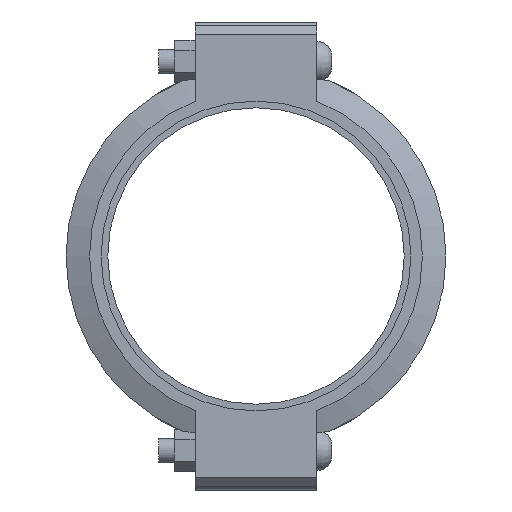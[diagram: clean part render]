
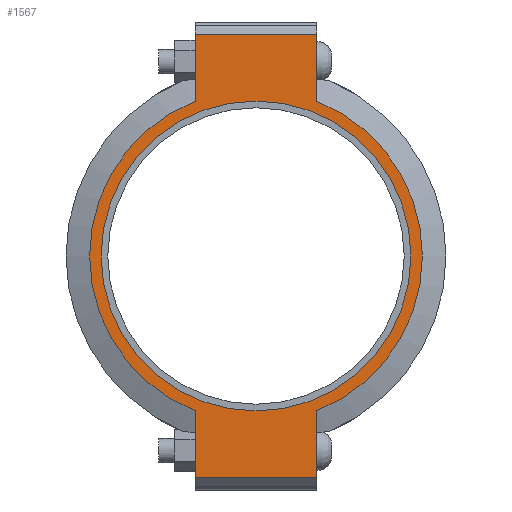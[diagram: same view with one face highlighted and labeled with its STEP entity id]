
A CAD part, left-side view. The second image highlights one B-rep face of the part: STEP entity #1567.
In plain terms, the highlighted planar face has unit normal (-1, 0, 0) as drawn and (0, 0, 1) by its records, which use the part's own axes.
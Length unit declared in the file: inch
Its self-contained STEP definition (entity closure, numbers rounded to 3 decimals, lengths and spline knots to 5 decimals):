
#194=LINE('',#2691,#281);
#205=LINE('',#2742,#292);
#211=LINE('',#2768,#298);
#213=LINE('',#2771,#300);
#214=LINE('',#2776,#301);
#215=LINE('',#2777,#302);
#281=VECTOR('',#2173,0.3937);
#292=VECTOR('',#2204,0.3937);
#298=VECTOR('',#2222,0.3937);
#300=VECTOR('',#2226,0.3937);
#301=VECTOR('',#2231,0.3937);
#302=VECTOR('',#2232,0.3937);
#360=FACE_BOUND('',#519,.T.);
#420=FACE_OUTER_BOUND('',#518,.T.);
#518=EDGE_LOOP('',(#1256,#1257,#1258,#1259,#1260,#1261,#1262,#1263));
#519=EDGE_LOOP('',(#1264));
#624=CIRCLE('',#1830,6.84375);
#625=CIRCLE('',#1831,6.84375);
#626=CIRCLE('',#1832,6.375);
#733=VERTEX_POINT('',#2688);
#734=VERTEX_POINT('',#2690);
#751=VERTEX_POINT('',#2737);
#752=VERTEX_POINT('',#2741);
#759=VERTEX_POINT('',#2763);
#760=VERTEX_POINT('',#2767);
#761=VERTEX_POINT('',#2773);
#762=VERTEX_POINT('',#2775);
#763=VERTEX_POINT('',#2779);
#903=EDGE_CURVE('',#734,#733,#194,.T.);
#924=EDGE_CURVE('',#752,#751,#205,.T.);
#935=EDGE_CURVE('',#760,#759,#211,.T.);
#937=EDGE_CURVE('',#760,#733,#213,.T.);
#938=EDGE_CURVE('',#759,#761,#624,.T.);
#939=EDGE_CURVE('',#761,#762,#214,.T.);
#940=EDGE_CURVE('',#752,#762,#215,.T.);
#941=EDGE_CURVE('',#751,#734,#625,.T.);
#942=EDGE_CURVE('',#763,#763,#626,.T.);
#1256=ORIENTED_EDGE('',*,*,#937,.F.);
#1257=ORIENTED_EDGE('',*,*,#935,.T.);
#1258=ORIENTED_EDGE('',*,*,#938,.T.);
#1259=ORIENTED_EDGE('',*,*,#939,.T.);
#1260=ORIENTED_EDGE('',*,*,#940,.F.);
#1261=ORIENTED_EDGE('',*,*,#924,.T.);
#1262=ORIENTED_EDGE('',*,*,#941,.T.);
#1263=ORIENTED_EDGE('',*,*,#903,.T.);
#1264=ORIENTED_EDGE('',*,*,#942,.T.);
#1419=PLANE('',#1829);
#1567=ADVANCED_FACE('',(#420,#360),#1419,.T.);
#1829=AXIS2_PLACEMENT_3D('',#2772,#2227,#2228);
#1830=AXIS2_PLACEMENT_3D('',#2774,#2229,#2230);
#1831=AXIS2_PLACEMENT_3D('',#2778,#2233,#2234);
#1832=AXIS2_PLACEMENT_3D('',#2780,#2235,#2236);
#2173=DIRECTION('',(1.,0.,0.));
#2204=DIRECTION('',(1.,0.,0.));
#2222=DIRECTION('',(-1.,0.,0.));
#2226=DIRECTION('',(0.,-1.,0.));
#2227=DIRECTION('center_axis',(0.,0.,1.));
#2228=DIRECTION('ref_axis',(-1.,0.,0.));
#2229=DIRECTION('center_axis',(0.,0.,1.));
#2230=DIRECTION('ref_axis',(1.,0.,0.));
#2231=DIRECTION('',(-1.,0.,0.));
#2232=DIRECTION('',(0.,1.,0.));
#2233=DIRECTION('center_axis',(0.,0.,1.));
#2234=DIRECTION('ref_axis',(1.,0.,0.));
#2235=DIRECTION('center_axis',(0.,0.,-1.));
#2236=DIRECTION('ref_axis',(1.,0.,0.));
#2688=CARTESIAN_POINT('',(9.125,-2.5,1.315));
#2690=CARTESIAN_POINT('',(6.37079,-2.5,1.315));
#2691=CARTESIAN_POINT('',(-9.625,-2.5,1.315));
#2737=CARTESIAN_POINT('',(-6.37079,-2.5,1.315));
#2741=CARTESIAN_POINT('',(-9.125,-2.5,1.315));
#2742=CARTESIAN_POINT('',(-9.625,-2.5,1.315));
#2763=CARTESIAN_POINT('',(6.37079,2.5,1.315));
#2767=CARTESIAN_POINT('',(9.125,2.5,1.315));
#2768=CARTESIAN_POINT('',(9.625,2.5,1.315));
#2771=CARTESIAN_POINT('',(9.125,-1.25,1.315));
#2772=CARTESIAN_POINT('Origin',(0.,0.,
1.315));
#2773=CARTESIAN_POINT('',(-6.37079,2.5,1.315));
#2774=CARTESIAN_POINT('Origin',(0.,0.,1.315));
#2775=CARTESIAN_POINT('',(-9.125,2.5,1.315));
#2776=CARTESIAN_POINT('',(9.625,2.5,1.315));
#2777=CARTESIAN_POINT('',(-9.125,1.25,1.315));
#2778=CARTESIAN_POINT('Origin',(0.,0.,1.315));
#2779=CARTESIAN_POINT('',(-6.375,0.,1.315));
#2780=CARTESIAN_POINT('Origin',(0.,0.,1.315));
